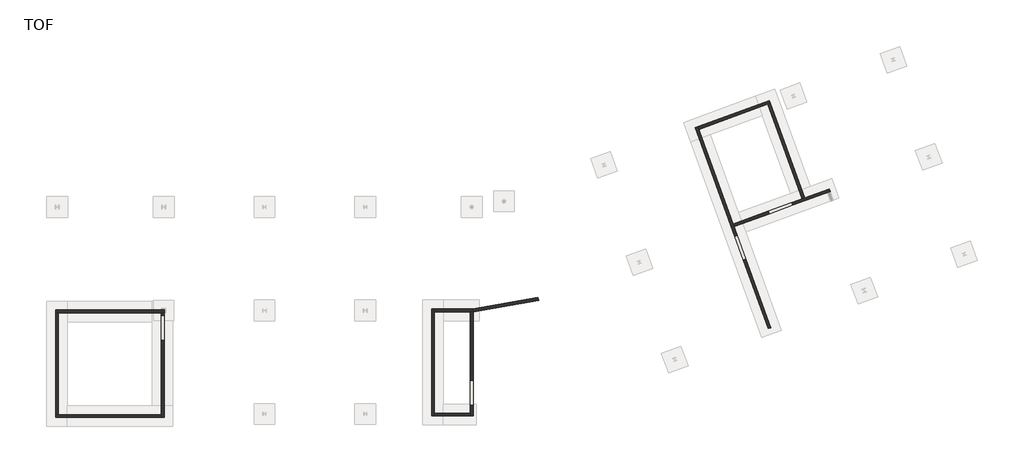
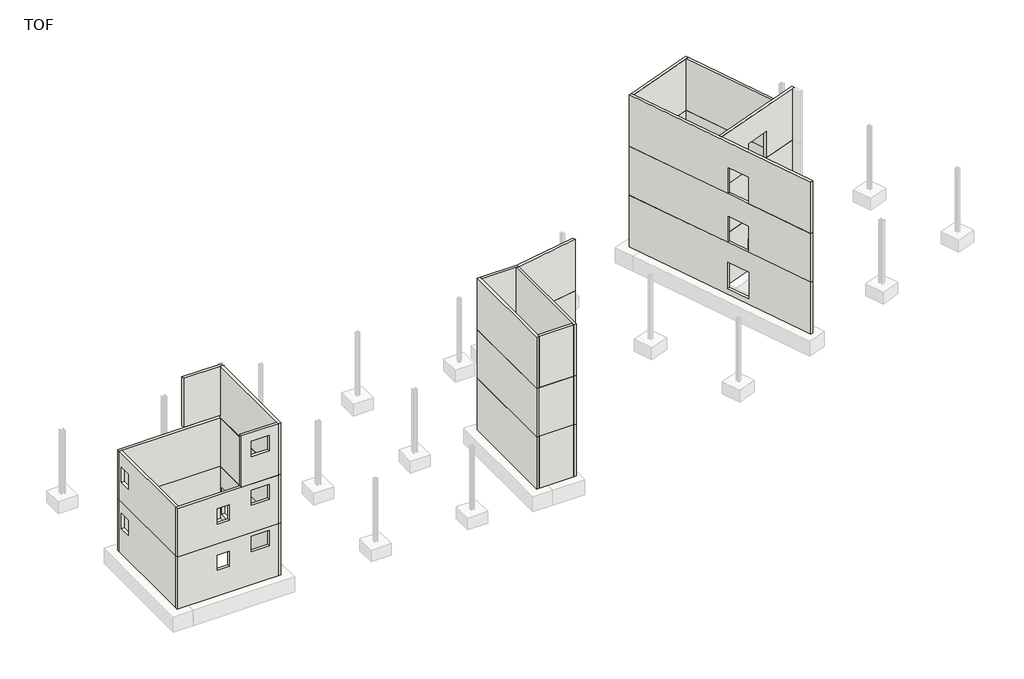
# One storey, part 1 of 2: 13 walls.
"""IFC4 building model written with IfcOpenShell, lengths in millimetres."""

from ifc_helpers import new_model, si_unit, frame, origin, place, context, project, spatial, polyline, outline, extrude, faceted_brep, element, save

model = new_model("IFC4")

# Units and contexts
model_context = context("Model", 3, world=origin())
ifc_project = project(units=[si_unit("LENGTHUNIT", "METRE", prefix="MILLI")], contexts=[model_context])

# Site, building, storey
site = spatial("IfcSite", under=ifc_project)
building = spatial("IfcBuilding", under=site)
storey = spatial("IfcBuildingStorey", under=building, Name="TOF", Elevation=-450.0)

# Walls
placement = place(None, origin())
element("IfcWall", 1, ObjectType="RC WALL 200", at=placement, inside=storey, context=model_context, shape_type="SolidModel", body=[
    faceted_brep([(27662.2000028, 7963.2000004, 7595.0), (27662.2000028, 220.0000006, 7595.0), (27462.2000028, 220.0000006, 7595.0), (27462.2000028, 7963.2000004, 7595.0), (27662.2000028, 7963.2000004, 11700.0), (27662.2000028, 7763.2000004, 11700.0), (27662.2000028, 420.0000006, 11700.0), (27662.2000028, 220.0000006, 11700.0), (27462.2000028, 7963.2000004, 11700.0), (27462.2000028, 220.0000006, 11700.0)], [[[0, 1, 2, 3]], [[0, 4, 5, 6, 7, 1]], [[4, 0, 3, 8]], [[5, 4, 8, 9, 7, 6]], [[1, 7, 9, 2]], [[2, 9, 8, 3]]]),
    faceted_brep([(27662.2000028, 220.0000006, 3695.0), (27662.2000028, 7963.2000004, 3695.0), (27462.2000028, 7963.2000004, 3695.0), (27462.2000028, 220.0000006, 3695.0), (27662.2000028, 220.0000006, -450.0), (27662.2000028, 420.0000006, -450.0), (27662.2000028, 7763.2000004, -450.0), (27662.2000028, 7963.2000004, -450.0), (27462.2000028, 220.0000006, -450.0), (27462.2000028, 7963.2000004, -450.0)], [[[0, 1, 2, 3]], [[4, 5, 6, 7, 1, 0]], [[5, 4, 8, 9, 7, 6]], [[1, 7, 9, 2]], [[4, 0, 3, 8]], [[8, 3, 2, 9]]]),
    extrude(outline(polyline([(27662.2000028, 7963.2000004), (27662.2000028, 220.0000006), (27462.2000028, 220.0000006), (27462.2000028, 7963.2000004), (27662.2000028, 7963.2000004)])), frame((0.0, 0.0, 3695.0), z_axis=(0.0, 0.0, 1.0), x_axis=(1.0, 0.0, 0.0)), (0.0, 0.0, 1.0), 3900.0),
])
element("IfcWall", 2, ObjectType="RC WALL 200", at=placement, inside=storey, context=model_context, shape_type="SolidModel", body=[
    faceted_brep([(30462.2000027, 7763.2000004, 7595.0), (27662.2000028, 7763.2000004, 7595.0), (27662.2000028, 7963.2000004, 7595.0), (30444.70227, 7963.2000004, 7595.0), (30462.2000027, 7763.2000004, 11700.0), (30262.2000024, 7763.2000004, 11700.0), (27662.2000028, 7763.2000004, 11700.0), (30444.70227, 7963.2000004, 11700.0), (27662.2000028, 7963.2000004, 11700.0)], [[[0, 1, 2, 3]], [[0, 4, 5, 6, 1]], [[4, 0, 3, 7]], [[5, 4, 7, 8, 6]], [[1, 6, 8, 2]], [[2, 8, 7, 3]]]),
    faceted_brep([(27662.2000028, 7763.2000004, 3695.0), (30462.2000027, 7763.2000004, 3695.0), (30444.70227, 7963.2000004, 3695.0), (27662.2000028, 7963.2000004, 3695.0), (27662.2000028, 7763.2000004, -450.0), (30262.2000024, 7763.2000004, -450.0), (30462.2000027, 7763.2000004, -450.0), (27662.2000028, 7963.2000004, -450.0), (30444.70227, 7963.2000004, -450.0)], [[[0, 1, 2, 3]], [[4, 5, 6, 1, 0]], [[5, 4, 7, 8, 6]], [[1, 6, 8, 2]], [[4, 0, 3, 7]], [[7, 3, 2, 8]]]),
    extrude(outline(polyline([(30462.2000027, 7763.2000004), (27662.2000028, 7763.2000004), (27662.2000028, 7963.2000004), (30444.70227, 7963.2000004), (30462.2000027, 7763.2000004)])), frame((0.0, 0.0, 3695.0), z_axis=(0.0, 0.0, 1.0), x_axis=(1.0, 0.0, 0.0)), (0.0, 0.0, 1.0), 3900.0),
])
element("IfcWall", 3, ObjectType="RC WALL 200", at=placement, inside=storey, context=model_context, shape_type="SweptSolid", body=[
    extrude(outline(polyline([(35205.0982701, 8599.5009317), (30462.2000027, 7763.2000004), (30444.70227, 7963.2000004), (35153.1367317, 8793.4240329), (35205.0982701, 8599.5009317)])), frame((0.0, 0.0, 7595.0), z_axis=(0.0, 0.0, 1.0), x_axis=(1.0, 0.0, 0.0)), (0.0, 0.0, 1.0), 4105.0),
    extrude(outline(polyline([(35205.0982701, 8599.5009317), (30462.2000027, 7763.2000004), (30444.70227, 7963.2000004), (35153.1367317, 8793.4240329), (35205.0982701, 8599.5009317)])), frame((0.0, 0.0, -450.0), z_axis=(0.0, 0.0, 1.0), x_axis=(1.0, 0.0, 0.0)), (0.0, 0.0, 1.0), 4145.0),
    extrude(outline(polyline([(35205.0982701, 8599.5009317), (30462.2000027, 7763.2000004), (30444.70227, 7963.2000004), (35153.1367317, 8793.4240329), (35205.0982701, 8599.5009317)])), frame((0.0, 0.0, 3695.0), z_axis=(0.0, 0.0, 1.0), x_axis=(1.0, 0.0, 0.0)), (0.0, 0.0, 1.0), 3900.0),
])
element("IfcWall", 4, ObjectType="RC WALL 200", at=placement, inside=storey, context=model_context, shape_type="Brep", body=[
    faceted_brep([(30262.2000024, 220.0000006, 7595.0), (30262.2000024, 995.5234345, 7595.0), (30462.2000024, 995.5234345, 7595.0), (30462.2000024, 220.0000006, 7595.0), (30262.2000024, 2805.5234345, 7595.0), (30262.2000024, 7763.2000004, 7595.0), (30462.2000024, 7763.2000004, 7595.0), (30462.2000024, 2805.5234345, 7595.0), (30262.2000024, 2805.5234345, 9705.0), (30262.2000024, 995.5234345, 9705.0), (30262.2000024, 220.0000006, 11700.0), (30262.2000024, 420.0000006, 11700.0), (30262.2000024, 7763.2000004, 11700.0), (30462.2000024, 2805.5234345, 9705.0), (30462.2000024, 995.5234345, 9705.0), (30462.2000024, 220.0000006, 11700.0), (30462.2000024, 7763.2000004, 11700.0)], [[[0, 1, 2, 3]], [[4, 5, 6, 7]], [[8, 9, 1, 0, 10, 11, 12, 5, 4]], [[9, 8, 13, 14]], [[1, 9, 14, 2]], [[8, 4, 7, 13]], [[10, 0, 3, 15]], [[11, 10, 15, 16, 12]], [[5, 12, 16, 6]], [[13, 7, 6, 16, 15, 3, 2, 14]]]),
    faceted_brep([(30262.2000024, 7763.2000004, 3695.0), (30262.2000024, 2805.5234345, 3695.0), (30262.2000024, 995.5234345, 3695.0), (30262.2000024, 220.0000006, 3695.0), (30462.2000024, 220.0000006, 3695.0), (30462.2000024, 995.5234345, 3695.0), (30462.2000024, 2805.5234345, 3695.0), (30462.2000024, 7763.2000004, 3695.0), (30262.2000024, 7763.2000004, -450.0), (30262.2000024, 420.0000006, -450.0), (30262.2000024, 220.0000006, -450.0), (30262.2000024, 2805.5234345, 2110.0), (30262.2000024, 995.5234345, 2110.0), (30262.2000024, 995.5234345, 0.0), (30262.2000024, 2805.5234345, 0.0), (30462.2000024, 2805.5234345, 2110.0), (30462.2000024, 995.5234345, 2110.0), (30462.2000024, 995.5234345, 0.0), (30462.2000024, 2805.5234345, 0.0), (30462.2000024, 7763.2000004, -450.0), (30462.2000024, 220.0000006, -450.0)], [[[0, 1, 2, 3, 4, 5, 6, 7]], [[8, 9, 10, 3, 2, 1, 0], [11, 12, 13, 14]], [[12, 11, 15, 16]], [[13, 12, 16, 17]], [[14, 13, 17, 18]], [[11, 14, 18, 15]], [[9, 8, 19, 20, 10]], [[3, 10, 20, 4]], [[8, 0, 7, 19]], [[19, 7, 6, 5, 4, 20], [15, 18, 17, 16]]]),
    faceted_brep([(30262.2000024, 7763.2000004, 7595.0), (30262.2000024, 2805.5234345, 7595.0), (30262.2000024, 995.5234345, 7595.0), (30262.2000024, 220.0000006, 7595.0), (30462.2000024, 220.0000006, 7595.0), (30462.2000024, 995.5234345, 7595.0), (30462.2000024, 2805.5234345, 7595.0), (30462.2000024, 7763.2000004, 7595.0), (30262.2000024, 220.0000006, 3695.0), (30262.2000024, 995.5234345, 3695.0), (30462.2000024, 995.5234345, 3695.0), (30462.2000024, 220.0000006, 3695.0), (30262.2000024, 2805.5234345, 3695.0), (30262.2000024, 7763.2000004, 3695.0), (30462.2000024, 7763.2000004, 3695.0), (30462.2000024, 2805.5234345, 3695.0), (30262.2000024, 2805.5234345, 5805.0), (30262.2000024, 995.5234345, 5805.0), (30462.2000024, 2805.5234345, 5805.0), (30462.2000024, 995.5234345, 5805.0)], [[[0, 1, 2, 3, 4, 5, 6, 7]], [[8, 9, 10, 11]], [[12, 13, 14, 15]], [[16, 17, 9, 8, 3, 2, 1, 0, 13, 12]], [[13, 0, 7, 14]], [[18, 15, 14, 7, 6, 5, 4, 11, 10, 19]], [[16, 12, 15, 18]], [[17, 16, 18, 19]], [[9, 17, 19, 10]], [[3, 8, 11, 4]]]),
])
element("IfcWall", 5, ObjectType="RC WALL 200", at=placement, inside=storey, context=model_context, shape_type="SweptSolid", body=[
    extrude(outline(polyline([(27662.2000028, 420.0000006), (30262.2000024, 420.0000006), (30262.2000024, 220.0000006), (27662.2000028, 220.0000006), (27662.2000028, 420.0000006)])), frame((0.0, 0.0, 7595.0), z_axis=(0.0, 0.0, 1.0), x_axis=(1.0, 0.0, 0.0)), (0.0, 0.0, 1.0), 4105.0),
    extrude(outline(polyline([(27662.2000028, 420.0000006), (30262.2000024, 420.0000006), (30262.2000024, 220.0000006), (27662.2000028, 220.0000006), (27662.2000028, 420.0000006)])), frame((0.0, 0.0, -450.0), z_axis=(0.0, 0.0, 1.0), x_axis=(1.0, 0.0, 0.0)), (0.0, 0.0, 1.0), 4145.0),
    extrude(outline(polyline([(27662.2000028, 420.0000006), (30262.2000024, 420.0000006), (30262.2000024, 220.0000006), (27662.2000028, 220.0000006), (27662.2000028, 420.0000006)])), frame((0.0, 0.0, 3695.0), z_axis=(0.0, 0.0, 1.0), x_axis=(1.0, 0.0, 0.0)), (0.0, 0.0, 1.0), 3900.0),
])
element("IfcWall", 6, ObjectType="RC WALL 200", at=placement, inside=storey, context=model_context, shape_type="Brep", body=[
    faceted_brep([(233.0000012, 7688.2000003, 3695.0), (8087.2000024, 7688.2000005, 3695.0), (8087.2000024, 7888.2000005, 3695.0), (233.0000013, 7888.2000003, 3695.0), (233.0000012, 7688.2000003, -450.0), (433.0000012, 7688.2000003, -450.0), (7887.2000024, 7688.2000005, -450.0), (8087.2000024, 7688.2000005, -450.0), (233.0000013, 7888.2000003, -450.0), (7887.2000024, 7888.2000005, -450.0), (8087.2000024, 7888.2000005, -450.0)], [[[0, 1, 2, 3]], [[4, 5, 6, 7, 1, 0]], [[5, 4, 8, 9, 10, 7, 6]], [[1, 7, 10, 2]], [[4, 0, 3, 8]], [[10, 9, 8, 3, 2]]]),
    faceted_brep([(233.0000012, 7688.2000003, 7595.0), (433.0000012, 7688.2000003, 7595.0), (8087.2000024, 7688.2000005, 7595.0), (8087.2000024, 7888.2000005, 7595.0), (7887.2000024, 7888.2000005, 7595.0), (233.0000013, 7888.2000003, 7595.0), (8087.2000024, 7688.2000005, 3695.0), (233.0000012, 7688.2000003, 3695.0), (233.0000013, 7888.2000003, 3695.0), (8087.2000024, 7888.2000005, 3695.0)], [[[0, 1, 2, 3, 4, 5]], [[6, 7, 8, 9]], [[6, 2, 1, 0, 7]], [[7, 0, 5, 8]], [[8, 5, 4, 3, 9]], [[2, 6, 9, 3]]]),
    faceted_brep([(8087.2000024, 7688.2000005, 7795.0), (5097.2000022, 7688.2000004, 7795.0), (5097.2000022, 7888.2000004, 7795.0), (7887.2000024, 7888.2000005, 7795.0), (8087.2000024, 7888.2000005, 7795.0), (8087.2000024, 7688.2000005, 11700.0), (8087.2000024, 7888.2000005, 11700.0), (7887.2000024, 7688.2000005, 11700.0), (7887.2000024, 7888.2000005, 11700.0), (5097.2000022, 7888.2000004, 11700.0), (5097.2000022, 7688.2000004, 11700.0)], [[[0, 1, 2, 3, 4]], [[5, 0, 4, 6]], [[7, 5, 6, 8, 9, 10]], [[1, 10, 9, 2]], [[5, 7, 10, 1, 0]], [[8, 6, 4, 3, 2, 9]]]),
])
element("IfcWall", 7, ObjectType="RC WALL 200", at=placement, inside=storey, context=model_context, shape_type="SolidModel", body=[
    faceted_brep([(7887.2000024, 113.0000007, 7595.0), (7887.2000024, 7688.2000005, 7595.0), (8087.2000024, 7688.2000005, 7595.0), (8087.2000024, 113.0000007, 7595.0), (7887.2000024, 113.0000007, 11700.0), (7887.2000024, 313.0000007, 11700.0), (7887.2000024, 7688.2000005, 11700.0), (8087.2000024, 113.0000007, 11700.0), (8087.2000024, 7688.2000005, 11700.0), (8087.2000024, 7688.2000005, 7795.0)], [[[0, 1, 2, 3]], [[0, 4, 5, 6, 1]], [[4, 0, 3, 7]], [[5, 4, 7, 8, 6]], [[1, 6, 8, 9, 2]], [[2, 9, 8, 7, 3]]]),
    faceted_brep([(7887.2000024, 7688.2000005, 3695.0), (7887.2000024, 113.0000007, 3695.0), (8087.2000024, 113.0000007, 3695.0), (8087.2000024, 7688.2000005, 3695.0), (7887.2000024, 7688.2000005, -450.0), (7887.2000024, 313.0000007, -450.0), (7887.2000024, 113.0000007, -450.0), (7887.2000024, 5678.2000005, 2110.0), (7887.2000024, 5678.2000005, 0.0), (7887.2000024, 7488.2000005, 0.0), (7887.2000024, 7488.2000005, 2110.0), (8087.2000024, 5678.2000005, 2110.0), (8087.2000024, 5678.2000005, 0.0), (8087.2000024, 7488.2000005, 0.0), (8087.2000024, 7488.2000005, 2110.0), (8087.2000024, 7688.2000005, -450.0), (8087.2000024, 113.0000007, -450.0)], [[[0, 1, 2, 3]], [[4, 5, 6, 1, 0], [7, 8, 9, 10]], [[8, 7, 11, 12]], [[9, 8, 12, 13]], [[10, 9, 13, 14]], [[7, 10, 14, 11]], [[5, 4, 15, 16, 6]], [[1, 6, 16, 2]], [[4, 0, 3, 15]], [[15, 3, 2, 16], [11, 14, 13, 12]]]),
    extrude(outline(polyline([(7887.2000024, 113.0000007), (7887.2000024, 7688.2000005), (8087.2000024, 7688.2000005), (8087.2000024, 113.0000007), (7887.2000024, 113.0000007)])), frame((0.0, 0.0, 3695.0), z_axis=(0.0, 0.0, 1.0), x_axis=(1.0, 0.0, 0.0)), (0.0, 0.0, 1.0), 3900.0),
])
element("IfcWall", 8, ObjectType="RC WALL 200", at=placement, inside=storey, context=model_context, shape_type="SolidModel", body=[
    extrude(outline(polyline([(7595.0, 7887.2000024), (11700.0, 7887.2000024), (11700.0, 5097.2000022), (7595.0, 5097.2000022), (7595.0, 7887.2000024)]), holes=[polyline([(10995.0, 5853.8166692), (10995.0, 7213.8166692), (9785.0, 7213.8166692), (9785.0, 5853.8166692), (10995.0, 5853.8166692)])]), frame((0.0, 113.0000007, 0.0), z_axis=(0.0, 1.0, 0.0), x_axis=(0.0, 0.0, 1.0)), (0.0, 0.0, 1.0), 200.0),
    faceted_brep([(7887.2000024, 313.0000007, 3695.0), (233.0000001, 313.0000007, 3695.0), (233.0, 113.0000007, 3695.0), (7887.2000024, 113.0000007, 3695.0), (7887.2000024, 313.0000007, -450.0), (433.0000001, 313.0000007, -450.0), (233.0000001, 313.0000007, -450.0), (4197.2000022, 313.0000007, 2800.0), (3287.2000022, 313.0000007, 2800.0), (3287.2000022, 313.0000007, 1590.0), (4197.2000022, 313.0000007, 1590.0), (7213.8166692, 313.0000007, 3400.0), (5853.8166692, 313.0000007, 3400.0), (5853.8166692, 313.0000007, 2190.0), (7213.8166692, 313.0000007, 2190.0), (7887.2000024, 113.0000007, -450.0), (233.0, 113.0000007, -450.0), (4197.2000022, 113.0000007, 2800.0), (3287.2000022, 113.0000007, 2800.0), (3287.2000022, 113.0000007, 1590.0), (4197.2000022, 113.0000007, 1590.0), (7213.8166692, 113.0000007, 3400.0), (5853.8166692, 113.0000007, 3400.0), (5853.8166692, 113.0000007, 2190.0), (7213.8166692, 113.0000007, 2190.0)], [[[0, 1, 2, 3]], [[4, 5, 6, 1, 0], [7, 8, 9, 10], [11, 12, 13, 14]], [[5, 4, 15, 16, 6]], [[1, 6, 16, 2]], [[4, 0, 3, 15]], [[8, 7, 17, 18]], [[9, 8, 18, 19]], [[10, 9, 19, 20]], [[7, 10, 20, 17]], [[12, 11, 21, 22]], [[13, 12, 22, 23]], [[14, 13, 23, 24]], [[11, 14, 24, 21]], [[15, 3, 2, 16], [17, 20, 19, 18], [21, 24, 23, 22]]]),
    faceted_brep([(7887.2000024, 313.0000007, 7595.0), (5097.2000022, 313.0000007, 7595.0), (433.0000001, 313.0000007, 7595.0), (233.0000001, 313.0000007, 7595.0), (233.0, 113.0000007, 7595.0), (5097.2000022, 113.0000007, 7595.0), (7887.2000024, 113.0000007, 7595.0), (233.0000001, 313.0000007, 3695.0), (7887.2000024, 313.0000007, 3695.0), (7887.2000024, 113.0000007, 3695.0), (233.0, 113.0000007, 3695.0), (4197.2000022, 313.0000007, 6495.0), (3287.2000022, 313.0000007, 6495.0), (3287.2000022, 313.0000007, 5285.0), (4197.2000022, 313.0000007, 5285.0), (7213.8166692, 313.0000007, 7095.0), (5853.8166692, 313.0000007, 7095.0), (5853.8166692, 313.0000007, 5885.0), (7213.8166692, 313.0000007, 5885.0), (7213.8166692, 113.0000007, 7095.0), (7213.8166692, 113.0000007, 5885.0), (5853.8166692, 113.0000007, 5885.0), (5853.8166692, 113.0000007, 7095.0), (4197.2000022, 113.0000007, 6495.0), (4197.2000022, 113.0000007, 5285.0), (3287.2000022, 113.0000007, 5285.0), (3287.2000022, 113.0000007, 6495.0)], [[[0, 1, 2, 3, 4, 5, 6]], [[7, 8, 9, 10]], [[7, 3, 2, 1, 0, 8], [11, 12, 13, 14], [15, 16, 17, 18]], [[8, 0, 6, 9]], [[9, 6, 5, 4, 10], [19, 20, 21, 22], [23, 24, 25, 26]], [[3, 7, 10, 4]], [[12, 11, 23, 26]], [[13, 12, 26, 25]], [[14, 13, 25, 24]], [[11, 14, 24, 23]], [[16, 15, 19, 22]], [[17, 16, 22, 21]], [[18, 17, 21, 20]], [[15, 18, 20, 19]]]),
])
element("IfcWall", 9, ObjectType="RC WALL 200", at=placement, inside=storey, context=model_context, shape_type="SweptSolid", body=[
    extrude(outline(polyline([(-1274.7140232, -4145.0), (-1274.7140232, -8045.0), (-8649.9140228, -8045.0), (-8649.9140228, -4145.0), (-1274.7140232, -4145.0)]), holes=[polyline([(-7439.9140228, -6945.0), (-7439.9140228, -5735.0), (-8349.9140228, -5735.0), (-8349.9140228, -6945.0), (-7439.9140228, -6945.0)])]), frame((232.9999998, -961.7140225, -450.0), z_axis=(1.0, -1.600288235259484e-10, 0.0), x_axis=(-1.600288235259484e-10, -1.0, 0.0)), (0.0, 0.0, 1.0), 200.0),
    extrude(outline(polyline([(-1274.7140232, 0.0), (-1274.7140232, -4145.0), (-8649.9140228, -4145.0), (-8649.9140228, 0.0), (-1274.7140232, 0.0)]), holes=[polyline([(-7439.9140228, -3250.0), (-7439.9140228, -2040.0), (-8349.9140228, -2040.0), (-8349.9140228, -3250.0), (-7439.9140228, -3250.0)])]), frame((232.9999998, -961.7140225, -450.0), z_axis=(1.0, -1.600288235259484e-10, 0.0), x_axis=(-1.600288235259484e-10, -1.0, 0.0)), (0.0, 0.0, 1.0), 200.0),
])
element("IfcWall", 10, ObjectType="RC WALL 200", at=placement, inside=storey, context=model_context, shape_type="Brep", body=[
    faceted_brep([(50208.0156906, 11601.865645, 7595.0), (52022.5009548, 6616.6083532, 7595.0), (51834.5624306, 6548.2043246, 7595.0), (50020.0771664, 11533.4616164, 7595.0), (46724.472127, 21172.8229263, 7595.0), (49588.9592312, 13302.7092887, 7595.0), (49401.020707, 13234.30526, 7595.0), (46536.5336029, 21104.4188977, 7595.0), (49588.9592312, 13302.7092887, 9705.0), (46724.472127, 21172.8229263, 11700.0), (46792.8761557, 20984.8844022, 11700.0), (49288.8365555, 14127.2895633, 11700.0), (49357.2405842, 13939.3510391, 11700.0), (52022.5009548, 6616.6083532, 11700.0), (50208.0156906, 11601.865645, 9705.0), (49401.020707, 13234.30526, 9705.0), (50020.0771664, 11533.4616164, 9705.0), (46536.5336029, 21104.4188977, 11700.0), (51834.5624306, 6548.2043246, 11700.0)], [[[0, 1, 2, 3]], [[4, 5, 6, 7]], [[8, 5, 4, 9, 10, 11, 12, 13, 1, 0, 14]], [[5, 8, 15, 6]], [[14, 0, 3, 16]], [[8, 14, 16, 15]], [[9, 4, 7, 17]], [[10, 9, 17, 18, 13, 12, 11]], [[1, 13, 18, 2]], [[15, 16, 3, 2, 18, 17, 7, 6]]]),
    faceted_brep([(52022.5009548, 6616.6083532, 3695.0), (50208.0156906, 11601.865645, 3695.0), (49588.9592312, 13302.7092887, 3695.0), (46724.472127, 21172.8229263, 3695.0), (46536.5336029, 21104.4188977, 3695.0), (49401.020707, 13234.30526, 3695.0), (50020.0771664, 11533.4616164, 3695.0), (51834.5624306, 6548.2043246, 3695.0), (52022.5009548, 6616.6083532, -450.0), (49357.2405842, 13939.3510391, -450.0), (49288.8365555, 14127.2895633, -450.0), (46792.8761557, 20984.8844022, -450.0), (46724.472127, 21172.8229263, -450.0), (49588.9592312, 13302.7092887, 2110.0), (49588.9592312, 13302.7092887, 0.0), (50208.0156906, 11601.865645, 0.0), (50208.0156906, 11601.865645, 2110.0), (49401.020707, 13234.30526, 2110.0), (49401.020707, 13234.30526, 0.0), (50020.0771664, 11533.4616164, 0.0), (50020.0771664, 11533.4616164, 2110.0), (51834.5624306, 6548.2043246, -450.0), (46536.5336029, 21104.4188977, -450.0)], [[[0, 1, 2, 3, 4, 5, 6, 7]], [[8, 9, 10, 11, 12, 3, 2, 1, 0], [13, 14, 15, 16]], [[14, 13, 17, 18]], [[15, 14, 18, 19]], [[16, 15, 19, 20]], [[13, 16, 20, 17]], [[9, 8, 21, 22, 12, 11, 10]], [[3, 12, 22, 4]], [[8, 0, 7, 21]], [[21, 7, 6, 5, 4, 22], [17, 20, 19, 18]]]),
    faceted_brep([(52022.5009548, 6616.6083532, 7595.0), (50208.0156906, 11601.865645, 7595.0), (49588.9592312, 13302.7092887, 7595.0), (46724.472127, 21172.8229263, 7595.0), (46536.5336029, 21104.4188977, 7595.0), (49401.020707, 13234.30526, 7595.0), (50020.0771664, 11533.4616164, 7595.0), (51834.5624306, 6548.2043246, 7595.0), (50208.0156906, 11601.865645, 3695.0), (52022.5009548, 6616.6083532, 3695.0), (51834.5624306, 6548.2043246, 3695.0), (50020.0771664, 11533.4616164, 3695.0), (46724.472127, 21172.8229263, 3695.0), (49588.9592312, 13302.7092887, 3695.0), (49401.020707, 13234.30526, 3695.0), (46536.5336029, 21104.4188977, 3695.0), (49588.9592312, 13302.7092887, 5805.0), (50208.0156906, 11601.865645, 5805.0), (49401.020707, 13234.30526, 5805.0), (50020.0771664, 11533.4616164, 5805.0)], [[[0, 1, 2, 3, 4, 5, 6, 7]], [[8, 9, 10, 11]], [[12, 13, 14, 15]], [[16, 13, 12, 3, 2, 1, 0, 9, 8, 17]], [[13, 16, 18, 14]], [[18, 19, 11, 10, 7, 6, 5, 4, 15, 14]], [[3, 12, 15, 4]], [[9, 0, 7, 10]], [[17, 8, 11, 19]], [[16, 17, 19, 18]]]),
])
element("IfcWall", 11, ObjectType="RC WALL 200", at=placement, inside=storey, context=model_context, shape_type="SolidModel", body=[
    faceted_brep([(51993.4637116, 22877.743473, 7595.0), (46792.8761557, 20984.8844022, 7595.0), (46724.472127, 21172.8229263, 7595.0), (51925.0596829, 23065.6819972, 7595.0), (51993.4637116, 22877.743473, 11700.0), (51805.5251874, 22809.3394444, 11700.0), (46792.8761557, 20984.8844022, 11700.0), (51925.0596829, 23065.6819972, 11700.0), (46724.472127, 21172.8229263, 11700.0)], [[[0, 1, 2, 3]], [[0, 4, 5, 6, 1]], [[4, 0, 3, 7]], [[5, 4, 7, 8, 6]], [[1, 6, 8, 2]], [[2, 8, 7, 3]]]),
    faceted_brep([(46792.8761557, 20984.8844022, 3695.0), (51993.4637116, 22877.743473, 3695.0), (51925.0596829, 23065.6819972, 3695.0), (46724.472127, 21172.8229263, 3695.0), (46792.8761557, 20984.8844022, -450.0), (51805.5251874, 22809.3394444, -450.0), (51993.4637116, 22877.743473, -450.0), (46724.472127, 21172.8229263, -450.0), (51925.0596829, 23065.6819972, -450.0)], [[[0, 1, 2, 3]], [[4, 5, 6, 1, 0]], [[5, 4, 7, 8, 6]], [[1, 6, 8, 2]], [[4, 0, 3, 7]], [[7, 3, 2, 8]]]),
    extrude(outline(polyline([(51993.4637116, 22877.743473), (46792.8761557, 20984.8844022), (46724.472127, 21172.8229263), (51925.0596829, 23065.6819972), (51993.4637116, 22877.743473)])), frame((0.0, 0.0, 3695.0), z_axis=(0.0, 0.0, 1.0), x_axis=(1.0, 0.0, 0.0)), (0.0, 0.0, 1.0), 3900.0),
])
element("IfcWall", 12, ObjectType="RC WALL 200", at=placement, inside=storey, context=model_context, shape_type="SweptSolid", body=[
    extrude(outline(polyline([(54301.4855873, 15951.7446055), (51805.5251874, 22809.3394444), (51993.4637116, 22877.743473), (54489.4241114, 16020.1486342), (54301.4855873, 15951.7446055)])), frame((0.0, 0.0, 7595.0), z_axis=(0.0, 0.0, 1.0), x_axis=(1.0, 0.0, 0.0)), (0.0, 0.0, 1.0), 4105.0),
    extrude(outline(polyline([(54301.4855873, 15951.7446055), (51805.5251874, 22809.3394444), (51993.4637116, 22877.743473), (54489.4241114, 16020.1486342), (54301.4855873, 15951.7446055)])), frame((0.0, 0.0, -450.0), z_axis=(0.0, 0.0, 1.0), x_axis=(1.0, 0.0, 0.0)), (0.0, 0.0, 1.0), 4145.0),
    extrude(outline(polyline([(54301.4855873, 15951.7446055), (51805.5251874, 22809.3394444), (51993.4637116, 22877.743473), (54489.4241114, 16020.1486342), (54301.4855873, 15951.7446055)])), frame((0.0, 0.0, 3695.0), z_axis=(0.0, 0.0, 1.0), x_axis=(1.0, 0.0, 0.0)), (0.0, 0.0, 1.0), 3900.0),
])
element("IfcWall", 13, ObjectType="RC WALL 200", at=placement, inside=storey, context=model_context, shape_type="Brep", body=[
    faceted_brep([(53549.7314906, 15678.1284909, 7595.0), (56242.5619494, 16658.2386237, 7595.0), (56310.965978, 16470.3000996, 7595.0), (53618.1355193, 15490.1899667, 7595.0), (49288.8365555, 14127.2895633, 7595.0), (51848.887847, 15059.0720315, 7595.0), (51917.2918756, 14871.1335074, 7595.0), (49357.2405842, 13939.3510391, 7595.0), (53549.7314906, 15678.1284909, 9705.0), (51848.887847, 15059.0720315, 9705.0), (49288.8365555, 14127.2895633, 11700.0), (54301.4855873, 15951.7446055, 11700.0), (54489.4241114, 16020.1486342, 11700.0), (56242.5619494, 16658.2386237, 11700.0), (53618.1355193, 15490.1899667, 9705.0), (51917.2918756, 14871.1335074, 9705.0), (49357.2405842, 13939.3510391, 11700.0), (56123.0274539, 16401.8960709, 11700.0), (56310.965978, 16470.3000996, 11700.0)], [[[0, 1, 2, 3]], [[4, 5, 6, 7]], [[8, 9, 5, 4, 10, 11, 12, 13, 1, 0]], [[9, 8, 14, 15]], [[5, 9, 15, 6]], [[8, 0, 3, 14]], [[10, 4, 7, 16]], [[11, 10, 16, 17, 18, 13, 12]], [[1, 13, 18, 2]], [[14, 3, 2, 18, 17, 16, 7, 6, 15]]]),
    faceted_brep([(56242.5619494, 16658.2386237, 3695.0), (53549.7314906, 15678.1284909, 3695.0), (51848.887847, 15059.0720315, 3695.0), (49288.8365555, 14127.2895633, 3695.0), (49357.2405842, 13939.3510391, 3695.0), (51917.2918756, 14871.1335074, 3695.0), (53618.1355193, 15490.1899667, 3695.0), (56310.965978, 16470.3000996, 3695.0), (56242.5619494, 16658.2386237, -450.0), (54489.4241114, 16020.1486342, -450.0), (54301.4855873, 15951.7446055, -450.0), (49288.8365555, 14127.2895633, -450.0), (53549.7314906, 15678.1284909, 2110.0), (51848.887847, 15059.0720315, 2110.0), (51848.887847, 15059.0720315, 0.0), (53549.7314906, 15678.1284909, 0.0), (56310.965978, 16470.3000996, -450.0), (56123.0274539, 16401.8960709, -450.0), (49357.2405842, 13939.3510391, -450.0), (53618.1355193, 15490.1899667, 2110.0), (51917.2918756, 14871.1335074, 2110.0), (51917.2918756, 14871.1335074, 0.0), (53618.1355193, 15490.1899667, 0.0)], [[[0, 1, 2, 3, 4, 5, 6, 7]], [[8, 9, 10, 11, 3, 2, 1, 0], [12, 13, 14, 15]], [[9, 8, 16, 17, 18, 11, 10]], [[3, 11, 18, 4]], [[8, 0, 7, 16]], [[13, 12, 19, 20]], [[14, 13, 20, 21]], [[15, 14, 21, 22]], [[12, 15, 22, 19]], [[16, 7, 6, 5, 4, 18, 17], [19, 22, 21, 20]]]),
    faceted_brep([(56242.5619494, 16658.2386237, 7595.0), (53549.7314906, 15678.1284909, 7595.0), (51848.887847, 15059.0720315, 7595.0), (49288.8365555, 14127.2895633, 7595.0), (49357.2405842, 13939.3510391, 7595.0), (51917.2918756, 14871.1335074, 7595.0), (53618.1355193, 15490.1899667, 7595.0), (56310.965978, 16470.3000996, 7595.0), (53549.7314906, 15678.1284909, 3695.0), (56242.5619494, 16658.2386237, 3695.0), (56310.965978, 16470.3000996, 3695.0), (53618.1355193, 15490.1899667, 3695.0), (49288.8365555, 14127.2895633, 3695.0), (51848.887847, 15059.0720315, 3695.0), (51917.2918756, 14871.1335074, 3695.0), (49357.2405842, 13939.3510391, 3695.0), (53549.7314906, 15678.1284909, 5805.0), (51848.887847, 15059.0720315, 5805.0), (51917.2918756, 14871.1335074, 5805.0), (53618.1355193, 15490.1899667, 5805.0)], [[[0, 1, 2, 3, 4, 5, 6, 7]], [[8, 9, 10, 11]], [[12, 13, 14, 15]], [[16, 17, 13, 12, 3, 2, 1, 0, 9, 8]], [[13, 17, 18, 14]], [[19, 11, 10, 7, 6, 5, 4, 15, 14, 18]], [[3, 12, 15, 4]], [[17, 16, 19, 18]], [[9, 0, 7, 10]], [[16, 8, 11, 19]]]),
])

save(model, "model.ifc")
